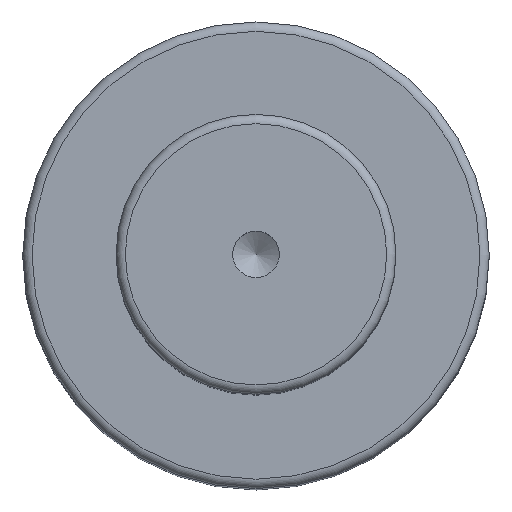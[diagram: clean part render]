
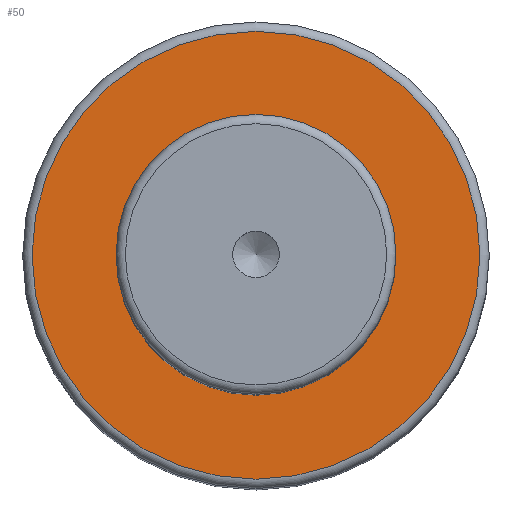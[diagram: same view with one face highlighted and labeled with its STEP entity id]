
A CAD part, top view. The second image highlights one B-rep face of the part: STEP entity #50.
In plain terms, the highlighted planar face has unit normal (0, 0, 1).
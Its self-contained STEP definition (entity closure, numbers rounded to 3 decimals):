
#40=PLANE('',#179);
#50=ADVANCED_FACE('',(#72,#73),#40,.F.);
#72=FACE_BOUND('',#96,.T.);
#73=FACE_BOUND('',#97,.T.);
#96=EDGE_LOOP('',(#118));
#97=EDGE_LOOP('',(#119));
#118=ORIENTED_EDGE('',*,*,#149,.F.);
#119=ORIENTED_EDGE('',*,*,#148,.T.);
#135=VERTEX_POINT('',#256);
#136=VERTEX_POINT('',#259);
#148=EDGE_CURVE('',#135,#135,#159,.T.);
#149=EDGE_CURVE('',#136,#136,#160,.T.);
#159=CIRCLE('',#176,15.);
#160=CIRCLE('',#178,24.);
#176=AXIS2_PLACEMENT_3D('',#255,#213,#214);
#178=AXIS2_PLACEMENT_3D('',#258,#217,#218);
#179=AXIS2_PLACEMENT_3D('',#260,#219,#220);
#213=DIRECTION('',(0.,0.,-1.));
#214=DIRECTION('',(-1.,0.,0.));
#217=DIRECTION('',(0.,0.,-1.));
#218=DIRECTION('',(-1.,0.,0.));
#219=DIRECTION('',(0.,0.,-1.));
#220=DIRECTION('',(-1.,0.,0.));
#255=CARTESIAN_POINT('',(0.,0.,90.));
#256=CARTESIAN_POINT('',(-15.,0.,90.));
#258=CARTESIAN_POINT('',(0.,0.,90.));
#259=CARTESIAN_POINT('',(-24.,0.,90.));
#260=CARTESIAN_POINT('',(15.,0.,90.));
